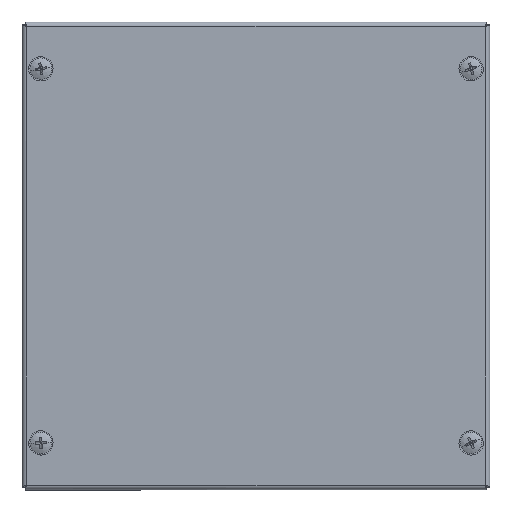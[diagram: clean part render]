
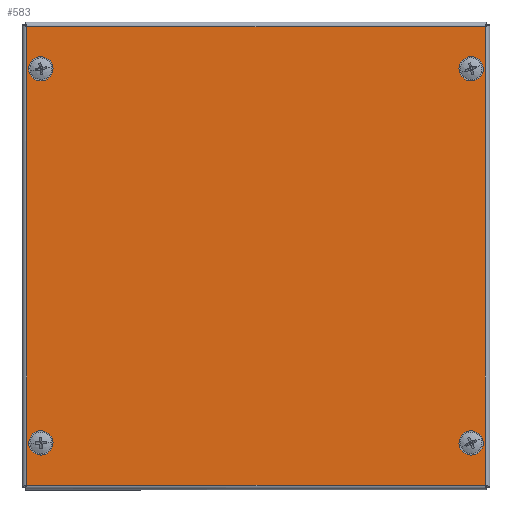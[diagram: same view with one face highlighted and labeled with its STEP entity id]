
A CAD part, top view. The second image highlights one B-rep face of the part: STEP entity #583.
In plain terms, the highlighted planar face has unit normal (0, 0, 1) as drawn and (0, 0, -1) by its records, which use the part's own axes.
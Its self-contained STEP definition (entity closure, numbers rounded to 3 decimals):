
#59 = EDGE_LOOP ( 'NONE', ( #13424, #301 ) ) ;
#301 = ORIENTED_EDGE ( 'NONE', *, *, #5136, .T. ) ;
#312 = CARTESIAN_POINT ( 'NONE',  ( 92., -80., -1.2 ) ) ;
#346 = ORIENTED_EDGE ( 'NONE', *, *, #7215, .T. ) ;
#519 = CARTESIAN_POINT ( 'NONE',  ( 98.093, -98.063, -1.2 ) ) ;
#531 = DIRECTION ( 'NONE',  ( 0., 0., 1. ) ) ;
#583 = ADVANCED_FACE ( 'NONE', ( #6607, #4966, #8967, #11155, #8603 ), #1043, .F. ) ;
#1043 = PLANE ( 'NONE',  #9850 ) ;
#1151 = CARTESIAN_POINT ( 'NONE',  ( -92., 80., -1.2 ) ) ;
#1309 = CARTESIAN_POINT ( 'NONE',  ( 96., 80., -1.2 ) ) ;
#1332 = AXIS2_PLACEMENT_3D ( 'NONE', #1640, #531, #10932 ) ;
#1452 = DIRECTION ( 'NONE',  ( 0., 0., 1. ) ) ;
#1640 = CARTESIAN_POINT ( 'NONE',  ( 92., 80., -1.2 ) ) ;
#1816 = DIRECTION ( 'NONE',  ( 0., 0., 1. ) ) ;
#1890 = DIRECTION ( 'NONE',  ( 0., 0., 1. ) ) ;
#1940 = VERTEX_POINT ( 'NONE', #12365 ) ;
#2181 = ORIENTED_EDGE ( 'NONE', *, *, #7266, .T. ) ;
#2221 = CIRCLE ( 'NONE', #5272, 4. ) ;
#2332 = DIRECTION ( 'NONE',  ( 1., 0., 0. ) ) ;
#2350 = CARTESIAN_POINT ( 'NONE',  ( -92., -80., -1.2 ) ) ;
#2389 = DIRECTION ( 'NONE',  ( 0., 0., 1. ) ) ;
#2390 = LINE ( 'NONE', #519, #11264 ) ;
#2437 = AXIS2_PLACEMENT_3D ( 'NONE', #10807, #1816, #4089 ) ;
#2470 = ORIENTED_EDGE ( 'NONE', *, *, #7870, .T. ) ;
#2521 = EDGE_LOOP ( 'NONE', ( #13678, #346, #2470, #7722 ) ) ;
#2577 = EDGE_LOOP ( 'NONE', ( #2676, #14553 ) ) ;
#2587 = ORIENTED_EDGE ( 'NONE', *, *, #9695, .T. ) ;
#2676 = ORIENTED_EDGE ( 'NONE', *, *, #12553, .T. ) ;
#2702 = VERTEX_POINT ( 'NONE', #9926 ) ;
#2817 = VECTOR ( 'NONE', #5437, 1000. ) ;
#3046 = CIRCLE ( 'NONE', #1332, 4. ) ;
#3138 = CIRCLE ( 'NONE', #4460, 4. ) ;
#3272 = DIRECTION ( 'NONE',  ( 1., 0., 0. ) ) ;
#3368 = CARTESIAN_POINT ( 'NONE',  ( -96., -80., -1.2 ) ) ;
#3658 = CARTESIAN_POINT ( 'NONE',  ( 98.063, 98.063, -1.2 ) ) ;
#3958 = DIRECTION ( 'NONE',  ( 0., 1., 0. ) ) ;
#4089 = DIRECTION ( 'NONE',  ( 1., 0., 0. ) ) ;
#4163 = VERTEX_POINT ( 'NONE', #10787 ) ;
#4357 = EDGE_CURVE ( 'NONE', #12721, #8738, #3046, .T. ) ;
#4460 = AXIS2_PLACEMENT_3D ( 'NONE', #4947, #7145, #6028 ) ;
#4947 = CARTESIAN_POINT ( 'NONE',  ( -92., -80., -1.2 ) ) ;
#4966 = FACE_BOUND ( 'NONE', #59, .T. ) ;
#5002 = DIRECTION ( 'NONE',  ( 0., 0., 1. ) ) ;
#5136 = EDGE_CURVE ( 'NONE', #7565, #13512, #8129, .T. ) ;
#5218 = AXIS2_PLACEMENT_3D ( 'NONE', #9636, #1452, #11960 ) ;
#5272 = AXIS2_PLACEMENT_3D ( 'NONE', #1151, #2389, #2332 ) ;
#5360 = VECTOR ( 'NONE', #14065, 1000. ) ;
#5437 = DIRECTION ( 'NONE',  ( 0., -1., 0. ) ) ;
#5644 = VERTEX_POINT ( 'NONE', #5710 ) ;
#5710 = CARTESIAN_POINT ( 'NONE',  ( -98.063, 98.063, -1.2 ) ) ;
#5772 = ORIENTED_EDGE ( 'NONE', *, *, #4357, .T. ) ;
#5892 = LINE ( 'NONE', #9551, #5360 ) ;
#5895 = LINE ( 'NONE', #8846, #2817 ) ;
#6028 = DIRECTION ( 'NONE',  ( 1., 0., 0. ) ) ;
#6555 = CARTESIAN_POINT ( 'NONE',  ( -92., 80., -1.2 ) ) ;
#6607 = FACE_BOUND ( 'NONE', #11821, .T. ) ;
#7145 = DIRECTION ( 'NONE',  ( 0., 0., 1. ) ) ;
#7215 = EDGE_CURVE ( 'NONE', #5644, #12117, #5892, .T. ) ;
#7266 = EDGE_CURVE ( 'NONE', #8738, #12721, #13900, .T. ) ;
#7346 = DIRECTION ( 'NONE',  ( 1., 0., 0. ) ) ;
#7565 = VERTEX_POINT ( 'NONE', #11718 ) ;
#7625 = EDGE_CURVE ( 'NONE', #13512, #7565, #12828, .T. ) ;
#7722 = ORIENTED_EDGE ( 'NONE', *, *, #11560, .T. ) ;
#7870 = EDGE_CURVE ( 'NONE', #12117, #14389, #5895, .T. ) ;
#8129 = CIRCLE ( 'NONE', #9886, 4. ) ;
#8363 = CARTESIAN_POINT ( 'NONE',  ( -88., -80., -1.2 ) ) ;
#8584 = CARTESIAN_POINT ( 'NONE',  ( -98.063, -98.093, -1.2 ) ) ;
#8603 = FACE_OUTER_BOUND ( 'NONE', #2521, .T. ) ;
#8738 = VERTEX_POINT ( 'NONE', #10931 ) ;
#8788 = EDGE_CURVE ( 'NONE', #2702, #4163, #10781, .T. ) ;
#8846 = CARTESIAN_POINT ( 'NONE',  ( 98.063, 98.093, -1.2 ) ) ;
#8967 = FACE_BOUND ( 'NONE', #13733, .T. ) ;
#9088 = DIRECTION ( 'NONE',  ( 1., 0., 0. ) ) ;
#9551 = CARTESIAN_POINT ( 'NONE',  ( -98.093, 98.063, -1.2 ) ) ;
#9636 = CARTESIAN_POINT ( 'NONE',  ( 92., -80., -1.2 ) ) ;
#9695 = EDGE_CURVE ( 'NONE', #13649, #12050, #3138, .T. ) ;
#9850 = AXIS2_PLACEMENT_3D ( 'NONE', #10234, #11547, #3272 ) ;
#9886 = AXIS2_PLACEMENT_3D ( 'NONE', #312, #5002, #7346 ) ;
#9926 = CARTESIAN_POINT ( 'NONE',  ( -96., 80., -1.2 ) ) ;
#10017 = DIRECTION ( 'NONE',  ( 1., 0., 0. ) ) ;
#10234 = CARTESIAN_POINT ( 'NONE',  ( 0., 0., -1.2 ) ) ;
#10781 = CIRCLE ( 'NONE', #12637, 4. ) ;
#10787 = CARTESIAN_POINT ( 'NONE',  ( -88., 80., -1.2 ) ) ;
#10807 = CARTESIAN_POINT ( 'NONE',  ( 92., 80., -1.2 ) ) ;
#10899 = VECTOR ( 'NONE', #3958, 1000. ) ;
#10931 = CARTESIAN_POINT ( 'NONE',  ( 88., 80., -1.2 ) ) ;
#10932 = DIRECTION ( 'NONE',  ( 1., 0., 0. ) ) ;
#11155 = FACE_BOUND ( 'NONE', #2577, .T. ) ;
#11264 = VECTOR ( 'NONE', #13398, 1000. ) ;
#11547 = DIRECTION ( 'NONE',  ( 0., 0., 1. ) ) ;
#11560 = EDGE_CURVE ( 'NONE', #14389, #1940, #2390, .T. ) ;
#11693 = EDGE_CURVE ( 'NONE', #1940, #5644, #13622, .T. ) ;
#11718 = CARTESIAN_POINT ( 'NONE',  ( 88., -80., -1.2 ) ) ;
#11821 = EDGE_LOOP ( 'NONE', ( #14736, #2587 ) ) ;
#11957 = EDGE_CURVE ( 'NONE', #12050, #13649, #12443, .T. ) ;
#11960 = DIRECTION ( 'NONE',  ( 1., 0., 0. ) ) ;
#12050 = VERTEX_POINT ( 'NONE', #8363 ) ;
#12117 = VERTEX_POINT ( 'NONE', #3658 ) ;
#12365 = CARTESIAN_POINT ( 'NONE',  ( -98.063, -98.063, -1.2 ) ) ;
#12443 = CIRCLE ( 'NONE', #14143, 4. ) ;
#12553 = EDGE_CURVE ( 'NONE', #4163, #2702, #2221, .T. ) ;
#12637 = AXIS2_PLACEMENT_3D ( 'NONE', #6555, #1890, #10017 ) ;
#12721 = VERTEX_POINT ( 'NONE', #1309 ) ;
#12806 = CARTESIAN_POINT ( 'NONE',  ( 98.063, -98.063, -1.2 ) ) ;
#12828 = CIRCLE ( 'NONE', #5218, 4. ) ;
#13398 = DIRECTION ( 'NONE',  ( -1., 0., 0. ) ) ;
#13424 = ORIENTED_EDGE ( 'NONE', *, *, #7625, .T. ) ;
#13512 = VERTEX_POINT ( 'NONE', #14626 ) ;
#13622 = LINE ( 'NONE', #8584, #10899 ) ;
#13649 = VERTEX_POINT ( 'NONE', #3368 ) ;
#13678 = ORIENTED_EDGE ( 'NONE', *, *, #11693, .T. ) ;
#13733 = EDGE_LOOP ( 'NONE', ( #5772, #2181 ) ) ;
#13900 = CIRCLE ( 'NONE', #2437, 4. ) ;
#14065 = DIRECTION ( 'NONE',  ( 1., 0., 0. ) ) ;
#14143 = AXIS2_PLACEMENT_3D ( 'NONE', #2350, #14968, #9088 ) ;
#14389 = VERTEX_POINT ( 'NONE', #12806 ) ;
#14553 = ORIENTED_EDGE ( 'NONE', *, *, #8788, .T. ) ;
#14626 = CARTESIAN_POINT ( 'NONE',  ( 96., -80., -1.2 ) ) ;
#14736 = ORIENTED_EDGE ( 'NONE', *, *, #11957, .T. ) ;
#14968 = DIRECTION ( 'NONE',  ( 0., 0., 1. ) ) ;
